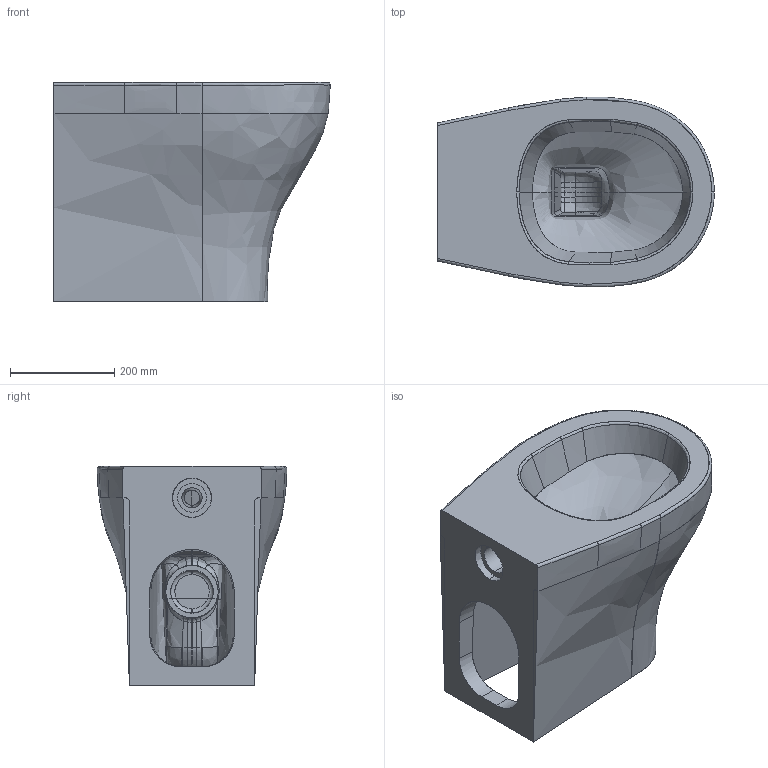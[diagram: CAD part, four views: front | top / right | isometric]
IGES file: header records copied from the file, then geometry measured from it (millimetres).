
Start section: START RECORD GO HERE.
Global section: file name: 7213.igs; native system: DASSAULT SYSTEMES CATIA V5 R19 - www.3ds.com; preprocessor: CATIA Version 5 Release 19 SP 5 ; author: gioge; organization: LAPTOP-G94B6G74; date: 20201002.165546; units: millimetre
Bounding box: 530.05 x 364.1 x 420 mm (x, y, z)
Surface area: 1527514.3 mm2 (no closed solid volume)
Topology: 0 solids, 0 shells, 370 faces, 2832 edges, 2811 vertices
Faces by surface type: bspline 301, plane 39, revolution 30
